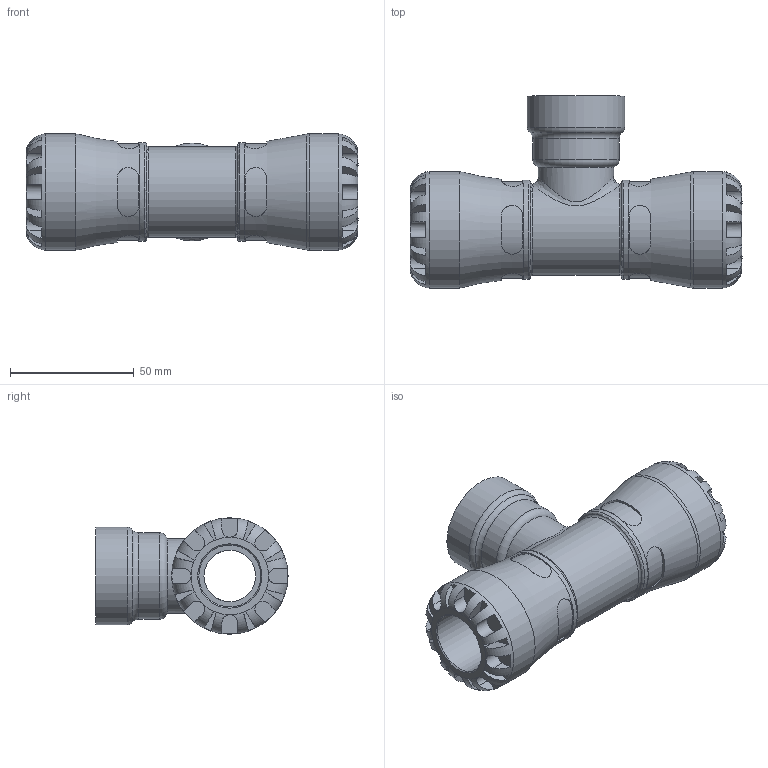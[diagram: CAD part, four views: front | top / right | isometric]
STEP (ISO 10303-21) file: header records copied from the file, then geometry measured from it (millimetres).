
FILE_DESCRIPTION(/* description */ ('PLASSON TEE WITH THREADED FEMALE OFFTAKE 25X1" SERIES 1'),/* implementation_level */ '2;1');
FILE_NAME(/* name */ 'C:\Dropbox\KIMPROJECTS-Inventor\99-16-3568-Processing\1014\101400025010_191400025010.ipt.stp',/* time_stamp */ '2017-01-30T09:06:21+02:00',/* author */ ('KIM'),/* organization */ (''),/* preprocessor_version */ 'ST-DEVELOPER v15.6',/* originating_system */ 'Autodesk Inventor 2015',/* authorisation */ '');
FILE_SCHEMA (('AUTOMOTIVE_DESIGN { 1 0 10303 214 3 1 1 }'));
Length unit declared in the file: millimetre
Products named in the file (1): 101400025010_191400025010
Bounding box: 134 x 77.5 x 47 mm (x, y, z)
Volume: 128294.9 mm3; surface area: 40354.5 mm2
Topology: 1 solids, 1 shells, 204 faces, 520 edges, 326 vertices
Faces by surface type: plane 120, cylinder 69, torus 12, cone 2, bspline 1
Full cylindrical faces by diameter (mm): 20.833 x1, 25 x2, 25.747 x1, 30.291 x2, 34.835 x1, 39.378 x1, 39.95 x2, 47 x2
Entity records: 7998 total; most frequent: CARTESIAN_POINT 3191, ORIENTED_EDGE 950, DIRECTION 924, EDGE_CURVE 475, AXIS2_PLACEMENT_3D 381, VERTEX_POINT 310, EDGE_LOOP 245, STYLED_ITEM 205
